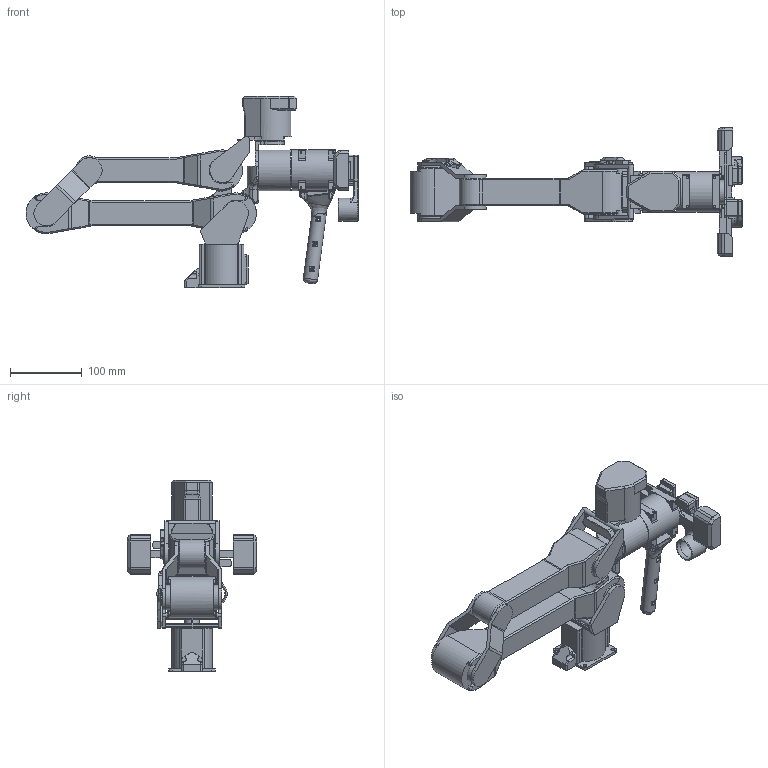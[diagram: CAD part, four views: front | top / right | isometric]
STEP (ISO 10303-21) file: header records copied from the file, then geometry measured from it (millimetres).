
FILE_DESCRIPTION(/* description */ ('STEP AP214','CAx-IF Rec.Pracs.---Representation and Presentation of Product Manufacturing Information (PMI)---4.0---2014-10-13'),/* implementation_level */ '2;1');
FILE_NAME(/* name */ 'WidowX AI Simplified Leader.step',/* time_stamp */ '2025-02-12T16:46:26-06:00',/* author */ (''),/* organization */ (''),/* preprocessor_version */ 'ST-DEVELOPER v20',/* originating_system */ 'Autodesk Translation Framework v13.20.0.188',/* authorisation */ '');
FILE_SCHEMA (('AP242_MANAGED_MODEL_BASED_3D_ENGINEERING_MIM_LF { 1 0 10303 442 1 1 4 }'));
Length unit declared in the file: millimetre
Products named in the file (13): dummy WidowX AI arm; base_link dummy:step:1; link_1 dummy.step; link_2 dummy.step; link_3 dummy.step; link_4 dummy.step; link_5; link_6 standard dummy.step; gripper_leader_right; widowx ai leader finger left.STEP; widowx ai leader finger right.STEP; widowx ai leader handle 2 side 1 (1); widowx ai leader handle 2 side 2 (1)
Assembly tree (13 placements, depth 2):
  dummy WidowX AI arm
    base_link dummy:step:1
    link_1 dummy.step
    link_2 dummy.step
    link_3 dummy.step
    link_4 dummy.step
    link_5
    link_6 standard dummy.step
    gripper_leader_right  x2
    widowx ai leader finger left.STEP
    widowx ai leader finger right.STEP
    widowx ai leader handle 2 side 1 (1)
    widowx ai leader handle 2 side 2 (1)
Bounding box: 462.7 x 180.6 x 266.4 mm (x, y, z)
Volume: 2223950.8 mm3; surface area: 329651.7 mm2
Topology: 15 solids, 15 shells, 1525 faces, 3946 edges, 2470 vertices
Faces by surface type: plane 656, cylinder 493, bspline 195, cone 90, torus 77, sphere 14
Full cylindrical faces by diameter (mm): 2.529 x12, 3.25 x28, 5.2 x4, 6 x15, 26 x2, 32.4 x2, 33.5 x1, 35 x10, 37 x1, 43 x1, 57 x2
Entity records: 59271 total; most frequent: CARTESIAN_POINT 23819, ORIENTED_EDGE 7498, DIRECTION 7198, EDGE_CURVE 3749, AXIS2_PLACEMENT_3D 2661, VERTEX_POINT 2350, LINE 1876, VECTOR 1876
